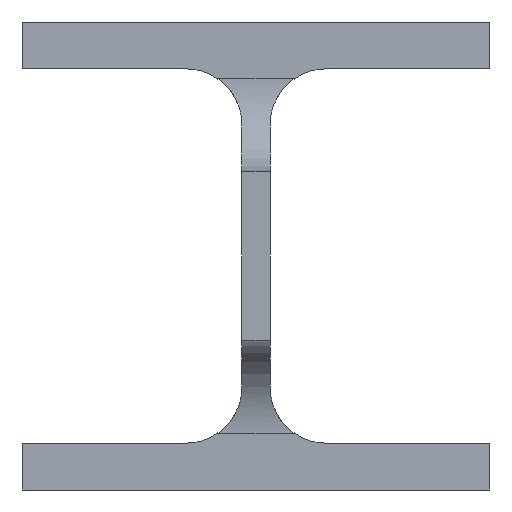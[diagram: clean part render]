
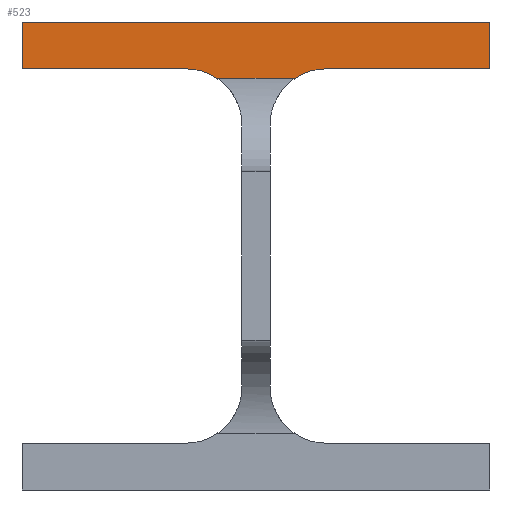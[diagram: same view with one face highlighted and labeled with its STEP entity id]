
A CAD part, front view. The second image highlights one B-rep face of the part: STEP entity #523.
In plain terms, the highlighted planar face has unit normal (0, -1, 0).
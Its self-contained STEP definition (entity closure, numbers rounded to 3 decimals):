
#32 = VECTOR ( 'NONE', #3629, 1000. ) ;
#124 = VERTEX_POINT ( 'NONE', #685 ) ;
#202 = CIRCLE ( 'NONE', #1767, 12. ) ;
#275 = LINE ( 'NONE', #1469, #1632 ) ;
#429 = EDGE_CURVE ( 'NONE', #3237, #2453, #1071, .T. ) ;
#481 = CARTESIAN_POINT ( 'NONE',  ( 8107., 802., 4170. ) ) ;
#523 = ADVANCED_FACE ( 'NONE', ( #2980 ), #3846, .T. ) ;
#561 = EDGE_CURVE ( 'NONE', #1366, #1382, #275, .T. ) ;
#614 = VECTOR ( 'NONE', #1399, 1000. ) ;
#683 = EDGE_CURVE ( 'NONE', #124, #1382, #202, .T. ) ;
#685 = CARTESIAN_POINT ( 'NONE',  ( 8077., 802., 4170. ) ) ;
#712 = ORIENTED_EDGE ( 'NONE', *, *, #683, .T. ) ;
#734 = ORIENTED_EDGE ( 'NONE', *, *, #2799, .T. ) ;
#772 = LINE ( 'NONE', #3191, #614 ) ;
#945 = EDGE_CURVE ( 'NONE', #1366, #3237, #3459, .T. ) ;
#962 = ORIENTED_EDGE ( 'NONE', *, *, #945, .T. ) ;
#967 = CARTESIAN_POINT ( 'NONE',  ( 8077., 802., 4170. ) ) ;
#1007 = CARTESIAN_POINT ( 'NONE',  ( 8042., 802., 4180. ) ) ;
#1071 = LINE ( 'NONE', #3766, #1884 ) ;
#1165 = EDGE_LOOP ( 'NONE', ( #712, #3724, #962, #2594, #3409, #734, #3694, #2442 ) ) ;
#1197 = DIRECTION ( 'NONE',  ( 0., 0., 1. ) ) ;
#1366 = VERTEX_POINT ( 'NONE', #3632 ) ;
#1382 = VERTEX_POINT ( 'NONE', #1982 ) ;
#1389 = DIRECTION ( 'NONE',  ( 1., 0., 0. ) ) ;
#1399 = DIRECTION ( 'NONE',  ( 0., 0., -1. ) ) ;
#1469 = CARTESIAN_POINT ( 'NONE',  ( 8835., 802., 4168. ) ) ;
#1473 = VECTOR ( 'NONE', #1197, 1000. ) ;
#1491 = CARTESIAN_POINT ( 'NONE',  ( 8042., 802., 4180. ) ) ;
#1632 = VECTOR ( 'NONE', #2687, 1000. ) ;
#1729 = DIRECTION ( 'NONE',  ( 0., 0., -1. ) ) ;
#1767 = AXIS2_PLACEMENT_3D ( 'NONE', #2399, #1870, #3007 ) ;
#1769 = CARTESIAN_POINT ( 'NONE',  ( 8835., 802., 4180. ) ) ;
#1870 = DIRECTION ( 'NONE',  ( 0., 1., 0. ) ) ;
#1873 = CARTESIAN_POINT ( 'NONE',  ( 8042., 802., 4170. ) ) ;
#1884 = VECTOR ( 'NONE', #1389, 1000. ) ;
#1930 = EDGE_CURVE ( 'NONE', #2453, #3894, #3003, .T. ) ;
#1982 = CARTESIAN_POINT ( 'NONE',  ( 8083.633, 802., 4168. ) ) ;
#2219 = DIRECTION ( 'NONE',  ( -1., 0., 0. ) ) ;
#2297 = CARTESIAN_POINT ( 'NONE',  ( 8107., 802., 4158. ) ) ;
#2310 = EDGE_CURVE ( 'NONE', #3055, #124, #3070, .T. ) ;
#2399 = CARTESIAN_POINT ( 'NONE',  ( 8077., 802., 4158. ) ) ;
#2442 = ORIENTED_EDGE ( 'NONE', *, *, #2310, .T. ) ;
#2453 = VERTEX_POINT ( 'NONE', #2462 ) ;
#2462 = CARTESIAN_POINT ( 'NONE',  ( 8142., 802., 4170. ) ) ;
#2530 = LINE ( 'NONE', #1007, #3062 ) ;
#2594 = ORIENTED_EDGE ( 'NONE', *, *, #429, .T. ) ;
#2687 = DIRECTION ( 'NONE',  ( -1., 0., 0. ) ) ;
#2763 = CARTESIAN_POINT ( 'NONE',  ( 8142., 802., 4180. ) ) ;
#2765 = AXIS2_PLACEMENT_3D ( 'NONE', #1769, #3900, #1729 ) ;
#2799 = EDGE_CURVE ( 'NONE', #3894, #3606, #2530, .T. ) ;
#2931 = DIRECTION ( 'NONE',  ( 0., 1., 0. ) ) ;
#2980 = FACE_OUTER_BOUND ( 'NONE', #1165, .T. ) ;
#3003 = LINE ( 'NONE', #2763, #1473 ) ;
#3007 = DIRECTION ( 'NONE',  ( 0., 0., -1. ) ) ;
#3055 = VERTEX_POINT ( 'NONE', #1873 ) ;
#3062 = VECTOR ( 'NONE', #2219, 1000. ) ;
#3070 = LINE ( 'NONE', #967, #32 ) ;
#3186 = EDGE_CURVE ( 'NONE', #3606, #3055, #772, .T. ) ;
#3191 = CARTESIAN_POINT ( 'NONE',  ( 8042., 802., 4170. ) ) ;
#3192 = CARTESIAN_POINT ( 'NONE',  ( 8142., 802., 4180. ) ) ;
#3237 = VERTEX_POINT ( 'NONE', #481 ) ;
#3339 = AXIS2_PLACEMENT_3D ( 'NONE', #2297, #2931, #3534 ) ;
#3409 = ORIENTED_EDGE ( 'NONE', *, *, #1930, .T. ) ;
#3459 = CIRCLE ( 'NONE', #3339, 12. ) ;
#3534 = DIRECTION ( 'NONE',  ( 0., 0., -1. ) ) ;
#3606 = VERTEX_POINT ( 'NONE', #1491 ) ;
#3629 = DIRECTION ( 'NONE',  ( 1., 0., 0. ) ) ;
#3632 = CARTESIAN_POINT ( 'NONE',  ( 8100.367, 802., 4168. ) ) ;
#3694 = ORIENTED_EDGE ( 'NONE', *, *, #3186, .T. ) ;
#3724 = ORIENTED_EDGE ( 'NONE', *, *, #561, .F. ) ;
#3766 = CARTESIAN_POINT ( 'NONE',  ( 8142., 802., 4170. ) ) ;
#3846 = PLANE ( 'NONE',  #2765 ) ;
#3894 = VERTEX_POINT ( 'NONE', #3192 ) ;
#3900 = DIRECTION ( 'NONE',  ( 0., -1., 0. ) ) ;
